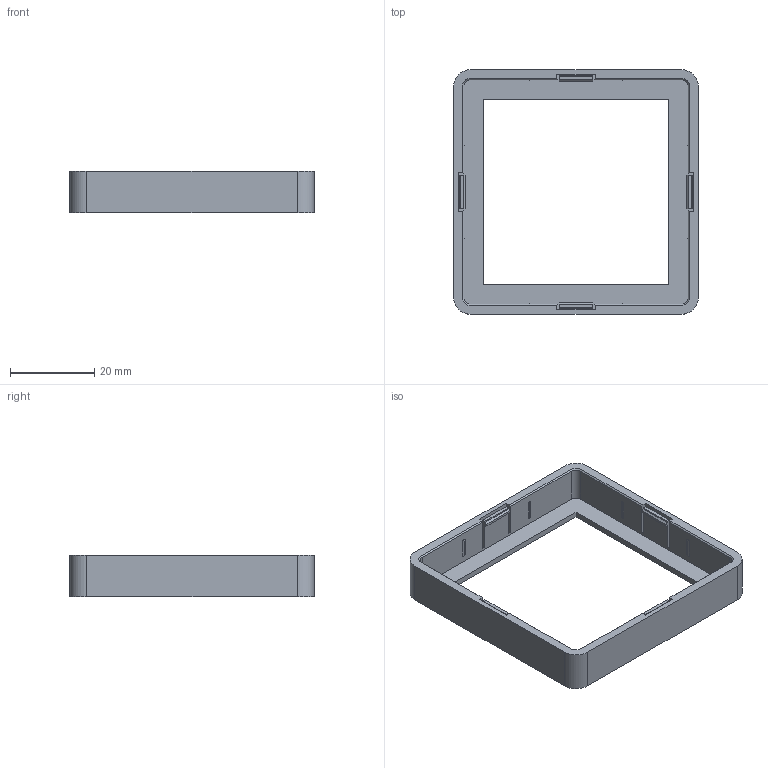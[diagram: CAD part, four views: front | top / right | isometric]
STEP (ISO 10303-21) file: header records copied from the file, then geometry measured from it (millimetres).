
FILE_DESCRIPTION(('FreeCAD Model'),'2;1');
FILE_NAME('Open CASCADE Shape Model','2026-10-03T15:52:20',('Author'),( ''),'Open CASCADE STEP processor 7.8','FreeCAD','Unknown');
FILE_SCHEMA(('AUTOMOTIVE_DESIGN { 1 0 10303 214 1 1 1 1 }'));
Length unit declared in the file: millimetre
Products named in the file (1): DiceBox_HiddenLock_Lid
Bounding box: 58 x 58 x 9.8 mm (x, y, z)
Volume: 6182 mm3; surface area: 7651.5 mm2
Topology: 1 solids, 1 shells, 151 faces, 396 edges, 256 vertices
Faces by surface type: bspline 151
Entity records: 5032 total; most frequent: CARTESIAN_POINT 2593, ORIENTED_EDGE 792, EDGE_CURVE 396, B_SPLINE_CURVE_WITH_KNOTS 368, VERTEX_POINT 256, FACE_BOUND 162, EDGE_LOOP 162, ADVANCED_FACE 151
